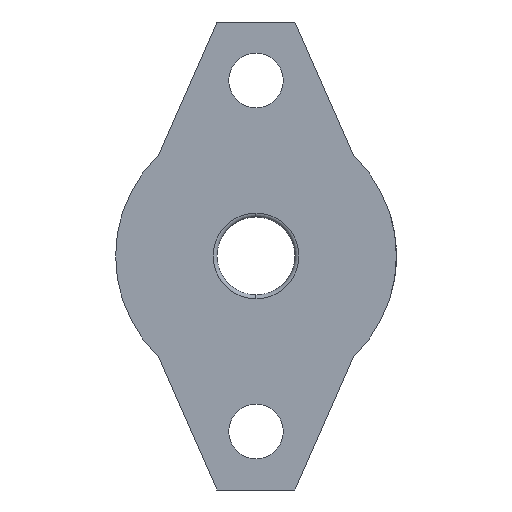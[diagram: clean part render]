
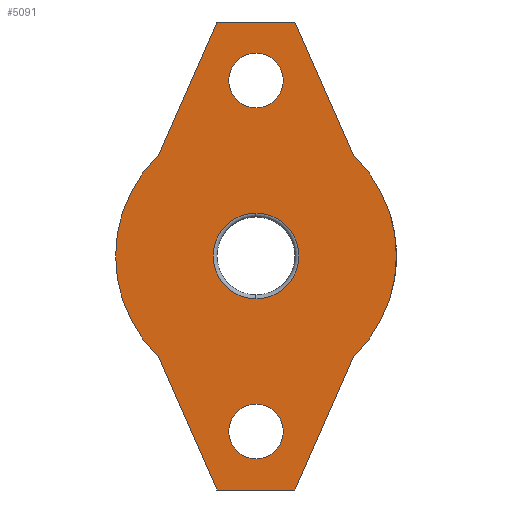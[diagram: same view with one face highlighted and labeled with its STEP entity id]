
A CAD part, front view. The second image highlights one B-rep face of the part: STEP entity #5091.
In plain terms, the highlighted planar face has unit normal (0, -1, 0).
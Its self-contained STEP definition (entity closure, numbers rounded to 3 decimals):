
#1 = VECTOR ( 'NONE', #5762, 1000. ) ;
#61 = CARTESIAN_POINT ( 'NONE',  ( 0., 0., -5.5 ) ) ;
#62 = FACE_BOUND ( 'NONE', #4714, .T. ) ;
#87 = ORIENTED_EDGE ( 'NONE', *, *, #5294, .T. ) ;
#185 = CARTESIAN_POINT ( 'NONE',  ( -12.518, 0., -12.934 ) ) ;
#233 = CARTESIAN_POINT ( 'NONE',  ( 0., 0., 0. ) ) ;
#277 = CARTESIAN_POINT ( 'NONE',  ( 0., 0., -26. ) ) ;
#319 = LINE ( 'NONE', #5900, #4966 ) ;
#451 = DIRECTION ( 'NONE',  ( 0., 1., 0. ) ) ;
#465 = EDGE_CURVE ( 'NONE', #2058, #5224, #3702, .T. ) ;
#497 = CARTESIAN_POINT ( 'NONE',  ( 0., 0., 0. ) ) ;
#544 = LINE ( 'NONE', #7015, #6585 ) ;
#665 = EDGE_CURVE ( 'NONE', #1286, #4271, #2303, .T. ) ;
#674 = CIRCLE ( 'NONE', #7261, 5.5 ) ;
#818 = EDGE_LOOP ( 'NONE', ( #5451, #6832 ) ) ;
#1049 = DIRECTION ( 'NONE',  ( 0., 1., 0. ) ) ;
#1069 = DIRECTION ( 'NONE',  ( 0., 0., 1. ) ) ;
#1075 = EDGE_LOOP ( 'NONE', ( #2916, #2805 ) ) ;
#1180 = CARTESIAN_POINT ( 'NONE',  ( 5., 0., 30. ) ) ;
#1286 = VERTEX_POINT ( 'NONE', #185 ) ;
#1289 = ORIENTED_EDGE ( 'NONE', *, *, #665, .F. ) ;
#1341 = ORIENTED_EDGE ( 'NONE', *, *, #7166, .T. ) ;
#1449 = VERTEX_POINT ( 'NONE', #5276 ) ;
#1655 = EDGE_CURVE ( 'NONE', #3979, #5688, #2411, .T. ) ;
#1669 = AXIS2_PLACEMENT_3D ( 'NONE', #6748, #451, #5027 ) ;
#1787 = CARTESIAN_POINT ( 'NONE',  ( 0., 0., -22.5 ) ) ;
#1859 = DIRECTION ( 'NONE',  ( 1., 0., 0. ) ) ;
#1917 = DIRECTION ( 'NONE',  ( 0., -1., 0. ) ) ;
#1943 = DIRECTION ( 'NONE',  ( 0., 0., 1. ) ) ;
#1951 = VERTEX_POINT ( 'NONE', #1180 ) ;
#1970 = DIRECTION ( 'NONE',  ( 0., 0., 1. ) ) ;
#2025 = EDGE_CURVE ( 'NONE', #6329, #1449, #2734, .T. ) ;
#2058 = VERTEX_POINT ( 'NONE', #6906 ) ;
#2133 = FACE_BOUND ( 'NONE', #818, .T. ) ;
#2271 = CARTESIAN_POINT ( 'NONE',  ( -5., 0., -30. ) ) ;
#2288 = CARTESIAN_POINT ( 'NONE',  ( 0., 0., 5.5 ) ) ;
#2303 = CIRCLE ( 'NONE', #1669, 18. ) ;
#2352 = DIRECTION ( 'NONE',  ( 0., 0., 1. ) ) ;
#2411 = LINE ( 'NONE', #4786, #3879 ) ;
#2427 = AXIS2_PLACEMENT_3D ( 'NONE', #5258, #1917, #5828 ) ;
#2437 = CARTESIAN_POINT ( 'NONE',  ( 0., 0., -22.5 ) ) ;
#2583 = CARTESIAN_POINT ( 'NONE',  ( -15.255, 0., 6.721 ) ) ;
#2713 = CIRCLE ( 'NONE', #5656, 18. ) ;
#2734 = CIRCLE ( 'NONE', #4024, 3.5 ) ;
#2791 = EDGE_CURVE ( 'NONE', #3431, #4180, #6600, .T. ) ;
#2805 = ORIENTED_EDGE ( 'NONE', *, *, #4206, .T. ) ;
#2916 = ORIENTED_EDGE ( 'NONE', *, *, #2025, .T. ) ;
#2918 = EDGE_CURVE ( 'NONE', #6775, #1286, #6292, .T. ) ;
#2998 = DIRECTION ( 'NONE',  ( 0., 0., 1. ) ) ;
#3112 = DIRECTION ( 'NONE',  ( 0.403, 0., 0.915 ) ) ;
#3138 = VECTOR ( 'NONE', #6492, 1000. ) ;
#3371 = ORIENTED_EDGE ( 'NONE', *, *, #2918, .F. ) ;
#3431 = VERTEX_POINT ( 'NONE', #2288 ) ;
#3454 = CARTESIAN_POINT ( 'NONE',  ( -12.518, 0., 12.934 ) ) ;
#3614 = DIRECTION ( 'NONE',  ( 0., 1., 0. ) ) ;
#3667 = DIRECTION ( 'NONE',  ( 1., 0., 0. ) ) ;
#3702 = CIRCLE ( 'NONE', #4788, 3.5 ) ;
#3835 = CARTESIAN_POINT ( 'NONE',  ( 12.518, 0., 12.934 ) ) ;
#3879 = VECTOR ( 'NONE', #3112, 1000. ) ;
#3892 = LINE ( 'NONE', #4645, #5428 ) ;
#3979 = VERTEX_POINT ( 'NONE', #5305 ) ;
#3996 = EDGE_CURVE ( 'NONE', #1951, #4272, #319, .T. ) ;
#4024 = AXIS2_PLACEMENT_3D ( 'NONE', #2437, #6353, #2998 ) ;
#4086 = CARTESIAN_POINT ( 'NONE',  ( -15.255, 0., -6.721 ) ) ;
#4180 = VERTEX_POINT ( 'NONE', #61 ) ;
#4198 = AXIS2_PLACEMENT_3D ( 'NONE', #1787, #5698, #2352 ) ;
#4206 = EDGE_CURVE ( 'NONE', #1449, #6329, #6377, .T. ) ;
#4207 = CIRCLE ( 'NONE', #2427, 3.5 ) ;
#4238 = CARTESIAN_POINT ( 'NONE',  ( 0., 0., 26. ) ) ;
#4271 = VERTEX_POINT ( 'NONE', #3454 ) ;
#4272 = VERTEX_POINT ( 'NONE', #3835 ) ;
#4370 = LINE ( 'NONE', #2583, #3138 ) ;
#4403 = CARTESIAN_POINT ( 'NONE',  ( 0., 0., 0. ) ) ;
#4424 = DIRECTION ( 'NONE',  ( 0., 1., 0. ) ) ;
#4552 = ORIENTED_EDGE ( 'NONE', *, *, #3996, .F. ) ;
#4628 = VERTEX_POINT ( 'NONE', #5467 ) ;
#4645 = CARTESIAN_POINT ( 'NONE',  ( 0., 0., -30. ) ) ;
#4649 = FACE_OUTER_BOUND ( 'NONE', #7076, .T. ) ;
#4671 = AXIS2_PLACEMENT_3D ( 'NONE', #233, #5283, #1943 ) ;
#4714 = EDGE_LOOP ( 'NONE', ( #5092, #1341 ) ) ;
#4786 = CARTESIAN_POINT ( 'NONE',  ( 15.255, 0., -6.721 ) ) ;
#4788 = AXIS2_PLACEMENT_3D ( 'NONE', #6691, #6565, #6153 ) ;
#4841 = FACE_BOUND ( 'NONE', #1075, .T. ) ;
#4958 = DIRECTION ( 'NONE',  ( 0., 0., 1. ) ) ;
#4966 = VECTOR ( 'NONE', #5873, 1000. ) ;
#5012 = ORIENTED_EDGE ( 'NONE', *, *, #5772, .F. ) ;
#5021 = EDGE_CURVE ( 'NONE', #5224, #2058, #4207, .T. ) ;
#5027 = DIRECTION ( 'NONE',  ( 0., 0., 1. ) ) ;
#5091 = ADVANCED_FACE ( 'NONE', ( #62, #2133, #4841, #4649 ), #6950, .F. ) ;
#5092 = ORIENTED_EDGE ( 'NONE', *, *, #2791, .T. ) ;
#5217 = CARTESIAN_POINT ( 'NONE',  ( 12.518, 0., -12.934 ) ) ;
#5224 = VERTEX_POINT ( 'NONE', #4238 ) ;
#5258 = CARTESIAN_POINT ( 'NONE',  ( 0., 0., 22.5 ) ) ;
#5276 = CARTESIAN_POINT ( 'NONE',  ( 0., 0., -19. ) ) ;
#5283 = DIRECTION ( 'NONE',  ( 0., 1., 0. ) ) ;
#5294 = EDGE_CURVE ( 'NONE', #4628, #4271, #4370, .T. ) ;
#5305 = CARTESIAN_POINT ( 'NONE',  ( 5., 0., -30. ) ) ;
#5428 = VECTOR ( 'NONE', #1859, 1000. ) ;
#5451 = ORIENTED_EDGE ( 'NONE', *, *, #465, .F. ) ;
#5467 = CARTESIAN_POINT ( 'NONE',  ( -5., 0., 30. ) ) ;
#5617 = ORIENTED_EDGE ( 'NONE', *, *, #6343, .F. ) ;
#5656 = AXIS2_PLACEMENT_3D ( 'NONE', #6956, #3614, #1970 ) ;
#5688 = VERTEX_POINT ( 'NONE', #5217 ) ;
#5698 = DIRECTION ( 'NONE',  ( 0., 1., 0. ) ) ;
#5728 = ORIENTED_EDGE ( 'NONE', *, *, #6287, .T. ) ;
#5762 = DIRECTION ( 'NONE',  ( -0.403, 0., 0.915 ) ) ;
#5772 = EDGE_CURVE ( 'NONE', #4272, #5688, #2713, .T. ) ;
#5828 = DIRECTION ( 'NONE',  ( 0., 0., 1. ) ) ;
#5873 = DIRECTION ( 'NONE',  ( 0.403, 0., -0.915 ) ) ;
#5900 = CARTESIAN_POINT ( 'NONE',  ( 15.255, 0., 6.721 ) ) ;
#5935 = ORIENTED_EDGE ( 'NONE', *, *, #1655, .T. ) ;
#6153 = DIRECTION ( 'NONE',  ( 0., 0., 1. ) ) ;
#6287 = EDGE_CURVE ( 'NONE', #6775, #3979, #3892, .T. ) ;
#6292 = LINE ( 'NONE', #4086, #1 ) ;
#6329 = VERTEX_POINT ( 'NONE', #277 ) ;
#6343 = EDGE_CURVE ( 'NONE', #4628, #1951, #544, .T. ) ;
#6353 = DIRECTION ( 'NONE',  ( 0., 1., 0. ) ) ;
#6377 = CIRCLE ( 'NONE', #4198, 3.5 ) ;
#6492 = DIRECTION ( 'NONE',  ( -0.403, 0., -0.915 ) ) ;
#6565 = DIRECTION ( 'NONE',  ( 0., -1., 0. ) ) ;
#6585 = VECTOR ( 'NONE', #3667, 1000. ) ;
#6600 = CIRCLE ( 'NONE', #6871, 5.5 ) ;
#6691 = CARTESIAN_POINT ( 'NONE',  ( 0., 0., 22.5 ) ) ;
#6748 = CARTESIAN_POINT ( 'NONE',  ( 0., 0., 0. ) ) ;
#6775 = VERTEX_POINT ( 'NONE', #2271 ) ;
#6832 = ORIENTED_EDGE ( 'NONE', *, *, #5021, .F. ) ;
#6871 = AXIS2_PLACEMENT_3D ( 'NONE', #4403, #1049, #4958 ) ;
#6906 = CARTESIAN_POINT ( 'NONE',  ( 0., 0., 19. ) ) ;
#6950 = PLANE ( 'NONE',  #4671 ) ;
#6956 = CARTESIAN_POINT ( 'NONE',  ( 0., 0., 0. ) ) ;
#7015 = CARTESIAN_POINT ( 'NONE',  ( 0., 0., 30. ) ) ;
#7076 = EDGE_LOOP ( 'NONE', ( #4552, #5617, #87, #1289, #3371, #5728, #5935, #5012 ) ) ;
#7166 = EDGE_CURVE ( 'NONE', #4180, #3431, #674, .T. ) ;
#7261 = AXIS2_PLACEMENT_3D ( 'NONE', #497, #4424, #1069 ) ;
